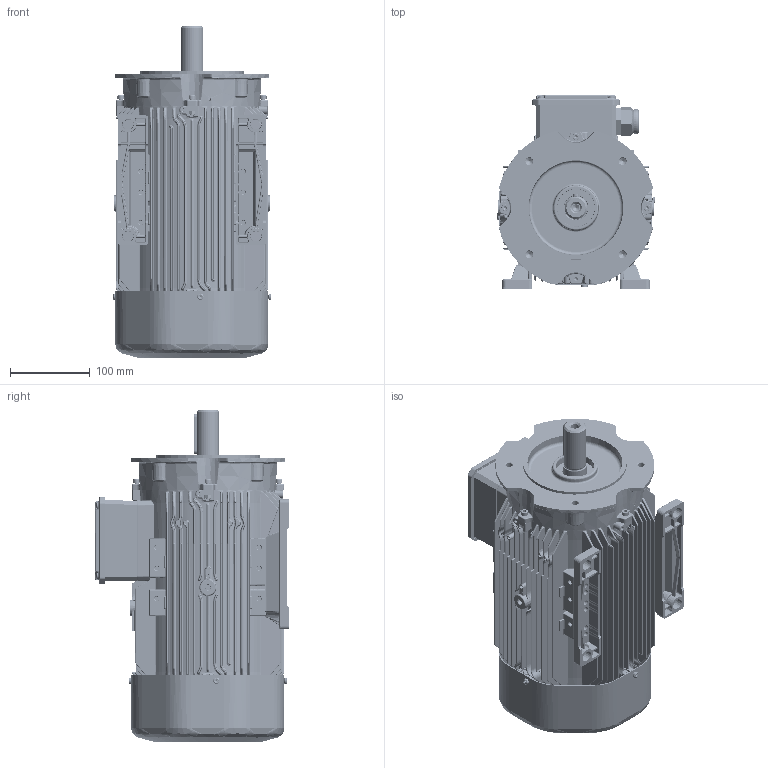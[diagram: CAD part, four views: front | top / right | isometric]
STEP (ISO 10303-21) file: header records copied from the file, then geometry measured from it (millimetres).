
FILE_DESCRIPTION(/* description */ (''),/* implementation_level */ '2;1');
FILE_NAME(/* name */ 'OUTLOOK VIEW QH100 PC B34 - BIGGER FT165 SPL.stp',/* time_stamp */ '2021-09-13T11:52:38+03:00',/* author */ (''),/* organization */ (''),/* preprocessor_version */ 'ST-DEVELOPER v16',/* originating_system */ 'SIEMENS PLM Software NX 11.0',/* authorisation */ '');
FILE_SCHEMA (('AUTOMOTIVE_DESIGN { 1 0 10303 214 3 1 1 1 }'));
Products named in the file (1): 26062CE45B9Cd4s2
Bounding box: 197.75 x 242.65 x 415.31 mm (x, y, z)
Volume: 5263895.8 mm3; surface area: 2017843.2 mm2
Topology: 74 solids, 74 shells, 12335 faces, 30080 edges, 17476 vertices
Faces by surface type: cylinder 3909, bspline 3670, plane 2951, torus 737, cone 568, sphere 438, extrusion 62
Full cylindrical faces by diameter (mm): 3.242 x4, 3.3 x4, 4 x9, 4.722 x3, 5 x20, 5.5 x4, 8 x8, 8.5 x13, 10 x1, 10.5 x1, 18.7 x1, 23.38 x2, 23.9 x1, 24.4 x1, 24.8 x1, 25 x5, 25.2 x1, 27.4 x1, 28 x1, 28.6 x1, 29.4 x1, 30 x3, 31 x1, 31.6 x1, 34 x2, 34.35 x8, 40 x1, 43.95 x4, 44.6 x4, 46.21 x8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
Entity records: 490036 total; most frequent: CARTESIAN_POINT 172919, ORIENTED_EDGE 57528, DIRECTION 53164, EDGE_CURVE 28764, AXIS2_PLACEMENT_3D 21644, VERTEX_POINT 17260, EDGE_LOOP 13442, ADVANCED_FACE 12315
